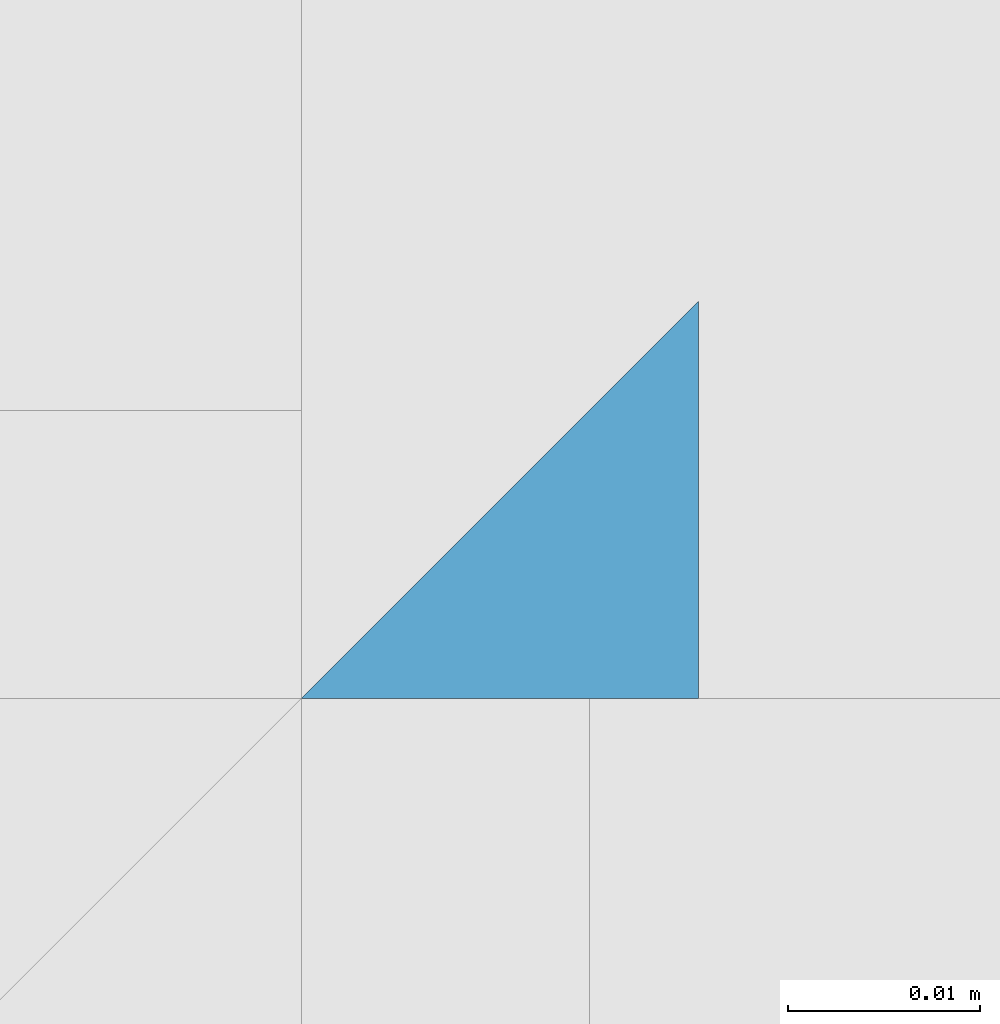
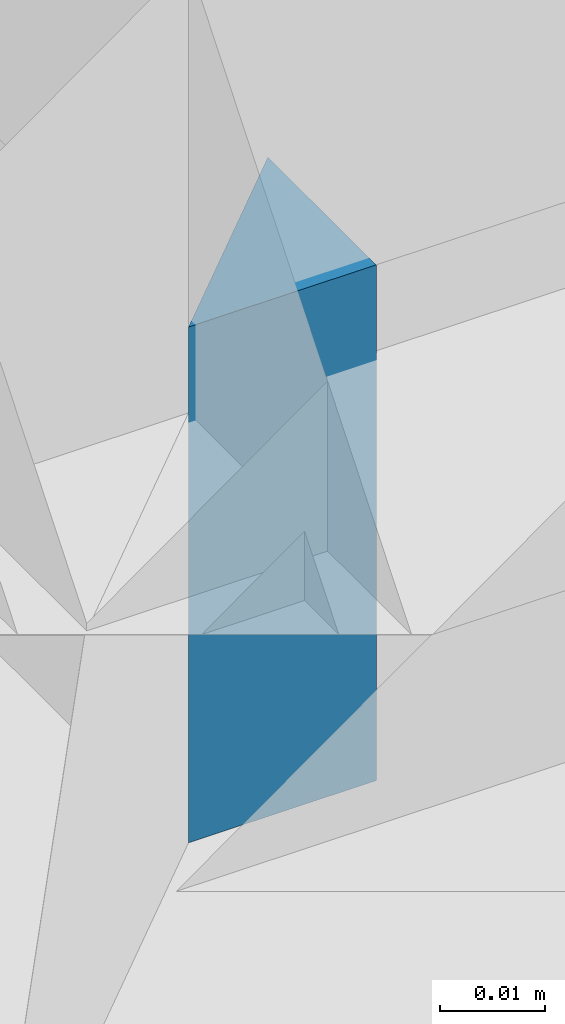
# One storey, part 102 of 260: 1 member, 1 element without a shape of its own.
"""IFC2X3 building model written with IfcOpenShell, lengths in millimetres."""

from ifc_helpers import new_model, entity, si_unit, converted_unit, derived_unit, money_unit, direction, frame, origin_with_axes, place, context, subcontext, project, spatial, faceted_brep, material, type_object, element, aggregate, save


model = new_model("IFC2X3")

# Units and contexts
model_context = context("Model", 3, precision=0.01, world=origin_with_axes(), true_north=direction((0.0, 1.0)))
body_context = subcontext(model_context, "Body", "Model", "MODEL_VIEW")
ifc_project = project(units=[si_unit("LENGTHUNIT", "METRE", prefix="MILLI"), si_unit("AREAUNIT", "SQUARE_METRE"), si_unit("VOLUMEUNIT", "CUBIC_METRE"), converted_unit("PLANEANGLEUNIT", "DEGREE", entity("IfcPlaneAngleMeasure", 0.0174532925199), si_unit("PLANEANGLEUNIT", "RADIAN"), dimensions=[0, 0, 0, 0, 0, 0, 0]), money_unit("EUR"), converted_unit("TIMEUNIT", "Year", entity("IfcTimeMeasure", 31556926.0), si_unit("TIMEUNIT", "SECOND"), dimensions=[0, 0, 1, 0, 0, 0, 0]), si_unit("MASSUNIT", "GRAM", prefix="KILO"), si_unit("THERMODYNAMICTEMPERATUREUNIT", "DEGREE_CELSIUS"), si_unit("LUMINOUSINTENSITYUNIT", "LUMEN"), si_unit("ENERGYUNIT", "JOULE", prefix="MEGA"), derived_unit("THERMALCONDUCTANCEUNIT", [(si_unit("POWERUNIT", "WATT"), 1), (si_unit("LENGTHUNIT", "METRE"), -1), (si_unit("THERMODYNAMICTEMPERATUREUNIT", "KELVIN"), -1)]), derived_unit("SPECIFICHEATCAPACITYUNIT", [(si_unit("ENERGYUNIT", "JOULE"), 1), (si_unit("MASSUNIT", "GRAM", prefix="KILO"), -1), (si_unit("THERMODYNAMICTEMPERATUREUNIT", "KELVIN"), -1)]), derived_unit("MASSDENSITYUNIT", [(si_unit("MASSUNIT", "GRAM", prefix="KILO"), 1), (si_unit("VOLUMEUNIT", "CUBIC_METRE"), -1)])], contexts=[model_context])

# Site, building, storey
site_placement = place(None, origin_with_axes())
site = spatial("IfcSite", under=ifc_project, at=site_placement, Name="Kolde pst 67a", CompositionType="ELEMENT")
building_placement = place(site_placement, origin_with_axes())
building = spatial("IfcBuilding", under=site, at=building_placement, Name="Riigigümnaasium", CompositionType="ELEMENT")
storey_placement = place(building_placement, origin_with_axes())
storey = spatial("IfcBuildingStorey", under=building, at=storey_placement, Name="1. korrus", CompositionType="ELEMENT", Elevation=0.0)

# Curtain wall, member
curtain_wall_type = type_object("IfcCurtainWallType", Name="Curtain Wall Type", PredefinedType="NOTDEFINED")
curtain_wall_placement = place(storey_placement, frame((47889.9854796, 7778.28071079, -0.000681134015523), z_axis=(0.0, 0.0, 1.0), x_axis=(1.0, 0.0, 0.0)))
curtain_wall = element("IfcCurtainWall", 1, at=curtain_wall_placement, inside=storey, type_object=curtain_wall_type, Name="Klaasfassaadi puitkarkass")
ifc_material = material(Name="_KANDETARIND - liimpuit vastavalt EK osale")
member_type = type_object("IfcMemberType", Name="Boundary Frame 60 x 360", PredefinedType="MEMBER")
member_placement = place(curtain_wall_placement, frame((20.6572765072, -448.280640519, 0.000492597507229), z_axis=(-1.0, 2.61927569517e-07, 0.0), x_axis=(0.0, 0.0, 1.0)))
member = element("IfcMember", 2, at=member_placement, type_object=member_type, material=ifc_material, Name="RF RAAM SERV-861", ObjectType="MEMBER", context=body_context, shape_type="Brep", body=[
    faceted_brep([(60.0, 20.6572814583, 0.0), (60.0, 0.0, 20.6572760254), (60.0, 0.0, 0.0), (0.0, 20.6572814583, 0.0), (0.0, 0.0, 20.6572760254), (0.0, 0.0, 0.0)], [[[0, 1, 2]], [[0, 3, 4, 1]], [[2, 1, 4, 5]], [[3, 0, 2, 5]], [[5, 4, 3]]]),
])
aggregate(curtain_wall, [member])

save(model, "model.ifc")
